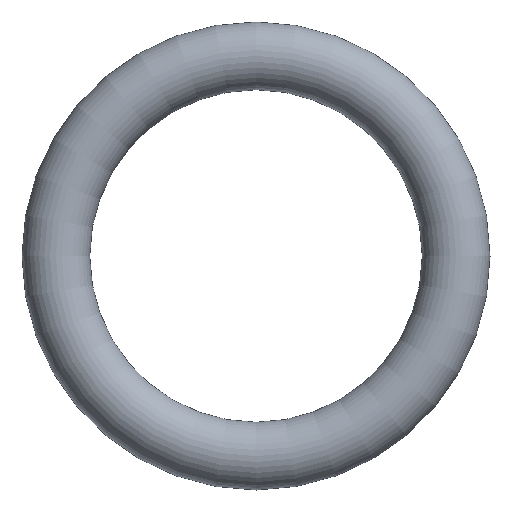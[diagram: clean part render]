
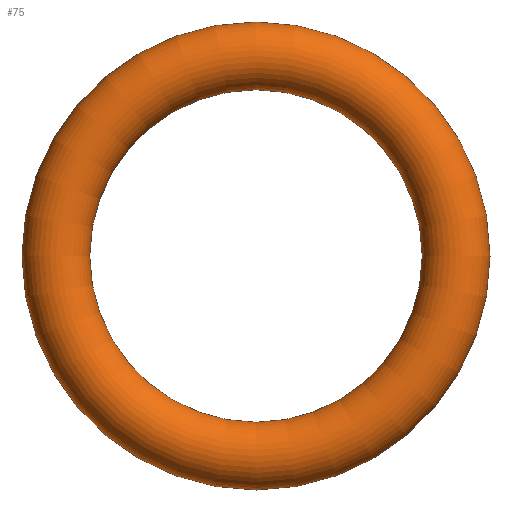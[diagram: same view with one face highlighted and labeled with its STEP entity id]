
A CAD part, front view. The second image highlights one B-rep face of the part: STEP entity #75.
In plain terms, the highlighted toroidal (fillet/blend) face has major radius 5.255 mm and minor radius 0.89 mm.
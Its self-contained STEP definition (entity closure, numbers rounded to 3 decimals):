
#75 = ADVANCED_FACE( '', ( #77 ), #78, .T. );
#77 = FACE_BOUND( '', #79, .T. );
#78 = TOROIDAL_SURFACE( '', #80, 5.255, 0.89 );
#79 = VERTEX_LOOP( '', #81 );
#80 = AXIS2_PLACEMENT_3D( '', #82, #83, #84 );
#81 = VERTEX_POINT( '', #85 );
#82 = CARTESIAN_POINT( '', ( 0., 0., 0. ) );
#83 = DIRECTION( '', ( 0., -1., 0. ) );
#84 = DIRECTION( '', ( 0., 0., -1. ) );
#85 = CARTESIAN_POINT( '', ( 0., 0., -6.145 ) );
